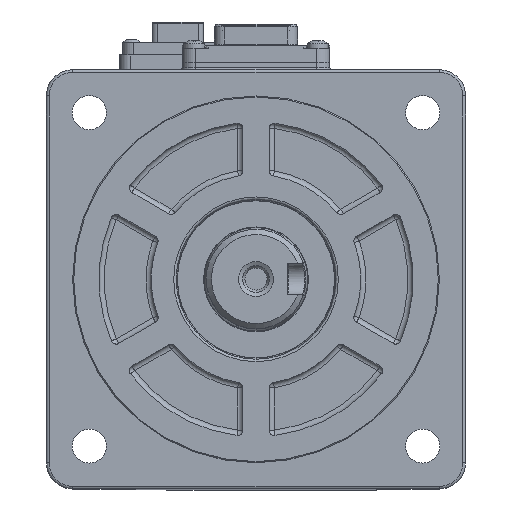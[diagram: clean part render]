
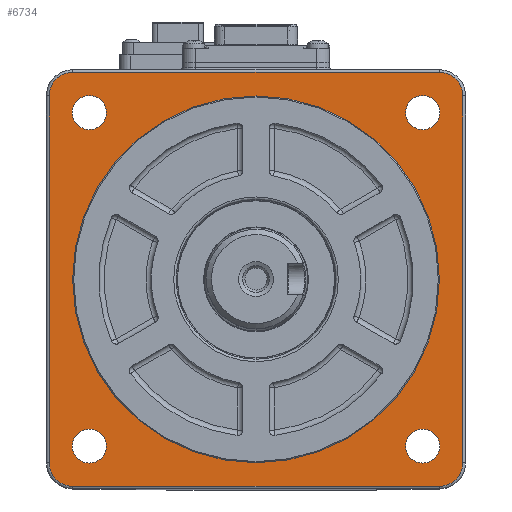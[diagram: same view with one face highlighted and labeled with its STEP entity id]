
A CAD part, top view. The second image highlights one B-rep face of the part: STEP entity #6734.
In plain terms, the highlighted planar face has unit normal (0, 0, 1).
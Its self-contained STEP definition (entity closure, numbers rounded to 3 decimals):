
#3180 = VERTEX_POINT('',#3181);
#3181 = CARTESIAN_POINT('',(13.703,8.075,133.5));
#3186 = EDGE_CURVE('',#3180,#3180,#3187,.T.);
#3187 = CIRCLE('',#3188,35.);
#3188 = AXIS2_PLACEMENT_3D('',#3189,#3190,#3191);
#3189 = CARTESIAN_POINT('',(-21.297,8.075,133.5));
#3190 = DIRECTION('',(0.,0.,1.));
#3191 = DIRECTION('',(1.,0.,-0.));
#3212 = VERTEX_POINT('',#3213);
#3213 = CARTESIAN_POINT('',(-49.867,-23.744,133.5));
#3218 = EDGE_CURVE('',#3212,#3212,#3219,.T.);
#3219 = CIRCLE('',#3220,3.25);
#3220 = AXIS2_PLACEMENT_3D('',#3221,#3222,#3223);
#3221 = CARTESIAN_POINT('',(-53.117,-23.744,133.5));
#3222 = DIRECTION('',(0.,0.,1.));
#3223 = DIRECTION('',(1.,0.,-0.));
#3244 = VERTEX_POINT('',#3245);
#3245 = CARTESIAN_POINT('',(13.772,-23.744,133.5));
#3250 = EDGE_CURVE('',#3244,#3244,#3251,.T.);
#3251 = CIRCLE('',#3252,3.25);
#3252 = AXIS2_PLACEMENT_3D('',#3253,#3254,#3255);
#3253 = CARTESIAN_POINT('',(10.522,-23.744,133.5));
#3254 = DIRECTION('',(0.,0.,1.));
#3255 = DIRECTION('',(1.,0.,-0.));
#3917 = VERTEX_POINT('',#3918);
#3918 = CARTESIAN_POINT('',(13.772,39.895,133.5));
#3923 = EDGE_CURVE('',#3917,#3917,#3924,.T.);
#3924 = CIRCLE('',#3925,3.25);
#3925 = AXIS2_PLACEMENT_3D('',#3926,#3927,#3928);
#3926 = CARTESIAN_POINT('',(10.522,39.895,133.5));
#3927 = DIRECTION('',(0.,0.,1.));
#3928 = DIRECTION('',(1.,0.,-0.));
#4590 = VERTEX_POINT('',#4591);
#4591 = CARTESIAN_POINT('',(-49.867,39.895,133.5));
#4596 = EDGE_CURVE('',#4590,#4590,#4597,.T.);
#4597 = CIRCLE('',#4598,3.25);
#4598 = AXIS2_PLACEMENT_3D('',#4599,#4600,#4601);
#4599 = CARTESIAN_POINT('',(-53.117,39.895,133.5));
#4600 = DIRECTION('',(0.,0.,1.));
#4601 = DIRECTION('',(1.,0.,-0.));
#6680 = VERTEX_POINT('',#6681);
#6681 = CARTESIAN_POINT('',(-56.297,-31.425,133.5));
#6688 = EDGE_CURVE('',#6689,#6680,#6691,.T.);
#6689 = VERTEX_POINT('',#6690);
#6690 = CARTESIAN_POINT('',(-60.797,-26.925,133.5));
#6691 = CIRCLE('',#6692,4.5);
#6692 = AXIS2_PLACEMENT_3D('',#6693,#6694,#6695);
#6693 = CARTESIAN_POINT('',(-56.297,-26.925,133.5));
#6694 = DIRECTION('',(-0.,0.,1.));
#6695 = DIRECTION('',(1.,0.,0.));
#6714 = EDGE_CURVE('',#6715,#6689,#6717,.T.);
#6715 = VERTEX_POINT('',#6716);
#6716 = CARTESIAN_POINT('',(-60.797,43.075,133.5));
#6717 = LINE('',#6718,#6719);
#6718 = CARTESIAN_POINT('',(-60.797,-26.925,133.5));
#6719 = VECTOR('',#6720,1.);
#6720 = DIRECTION('',(0.,-1.,0.));
#6734 = ADVANCED_FACE('',(#6735,#6788,#6791,#6794,#6797,#6800),#6803,.T.
  );
#6735 = FACE_BOUND('',#6736,.T.);
#6736 = EDGE_LOOP('',(#6737,#6747,#6754,#6755,#6756,#6764,#6773,#6781));
#6737 = ORIENTED_EDGE('',*,*,#6738,.T.);
#6738 = EDGE_CURVE('',#6739,#6741,#6743,.T.);
#6739 = VERTEX_POINT('',#6740);
#6740 = CARTESIAN_POINT('',(13.703,47.575,133.5));
#6741 = VERTEX_POINT('',#6742);
#6742 = CARTESIAN_POINT('',(-56.297,47.575,133.5));
#6743 = LINE('',#6744,#6745);
#6744 = CARTESIAN_POINT('',(-21.297,47.575,133.5));
#6745 = VECTOR('',#6746,1.);
#6746 = DIRECTION('',(-1.,0.,-0.));
#6747 = ORIENTED_EDGE('',*,*,#6748,.T.);
#6748 = EDGE_CURVE('',#6741,#6715,#6749,.T.);
#6749 = CIRCLE('',#6750,4.5);
#6750 = AXIS2_PLACEMENT_3D('',#6751,#6752,#6753);
#6751 = CARTESIAN_POINT('',(-56.297,43.075,133.5));
#6752 = DIRECTION('',(-0.,0.,1.));
#6753 = DIRECTION('',(1.,0.,0.));
#6754 = ORIENTED_EDGE('',*,*,#6714,.T.);
#6755 = ORIENTED_EDGE('',*,*,#6688,.T.);
#6756 = ORIENTED_EDGE('',*,*,#6757,.T.);
#6757 = EDGE_CURVE('',#6680,#6758,#6760,.T.);
#6758 = VERTEX_POINT('',#6759);
#6759 = CARTESIAN_POINT('',(13.703,-31.425,133.5));
#6760 = LINE('',#6761,#6762);
#6761 = CARTESIAN_POINT('',(13.703,-31.425,133.5));
#6762 = VECTOR('',#6763,1.);
#6763 = DIRECTION('',(1.,-0.,0.));
#6764 = ORIENTED_EDGE('',*,*,#6765,.T.);
#6765 = EDGE_CURVE('',#6758,#6766,#6768,.T.);
#6766 = VERTEX_POINT('',#6767);
#6767 = CARTESIAN_POINT('',(18.203,-26.925,133.5));
#6768 = CIRCLE('',#6769,4.5);
#6769 = AXIS2_PLACEMENT_3D('',#6770,#6771,#6772);
#6770 = CARTESIAN_POINT('',(13.703,-26.925,133.5));
#6771 = DIRECTION('',(-0.,0.,1.));
#6772 = DIRECTION('',(1.,0.,0.));
#6773 = ORIENTED_EDGE('',*,*,#6774,.T.);
#6774 = EDGE_CURVE('',#6766,#6775,#6777,.T.);
#6775 = VERTEX_POINT('',#6776);
#6776 = CARTESIAN_POINT('',(18.203,43.075,133.5));
#6777 = LINE('',#6778,#6779);
#6778 = CARTESIAN_POINT('',(18.203,8.075,133.5));
#6779 = VECTOR('',#6780,1.);
#6780 = DIRECTION('',(0.,1.,-0.));
#6781 = ORIENTED_EDGE('',*,*,#6782,.T.);
#6782 = EDGE_CURVE('',#6775,#6739,#6783,.T.);
#6783 = CIRCLE('',#6784,4.5);
#6784 = AXIS2_PLACEMENT_3D('',#6785,#6786,#6787);
#6785 = CARTESIAN_POINT('',(13.703,43.075,133.5));
#6786 = DIRECTION('',(-0.,0.,1.));
#6787 = DIRECTION('',(1.,0.,0.));
#6788 = FACE_BOUND('',#6789,.T.);
#6789 = EDGE_LOOP('',(#6790));
#6790 = ORIENTED_EDGE('',*,*,#3186,.F.);
#6791 = FACE_BOUND('',#6792,.T.);
#6792 = EDGE_LOOP('',(#6793));
#6793 = ORIENTED_EDGE('',*,*,#3250,.F.);
#6794 = FACE_BOUND('',#6795,.T.);
#6795 = EDGE_LOOP('',(#6796));
#6796 = ORIENTED_EDGE('',*,*,#3218,.F.);
#6797 = FACE_BOUND('',#6798,.T.);
#6798 = EDGE_LOOP('',(#6799));
#6799 = ORIENTED_EDGE('',*,*,#4596,.F.);
#6800 = FACE_BOUND('',#6801,.T.);
#6801 = EDGE_LOOP('',(#6802));
#6802 = ORIENTED_EDGE('',*,*,#3923,.F.);
#6803 = PLANE('',#6804);
#6804 = AXIS2_PLACEMENT_3D('',#6805,#6806,#6807);
#6805 = CARTESIAN_POINT('',(-21.297,8.075,133.5));
#6806 = DIRECTION('',(-0.,0.,1.));
#6807 = DIRECTION('',(1.,0.,0.));
